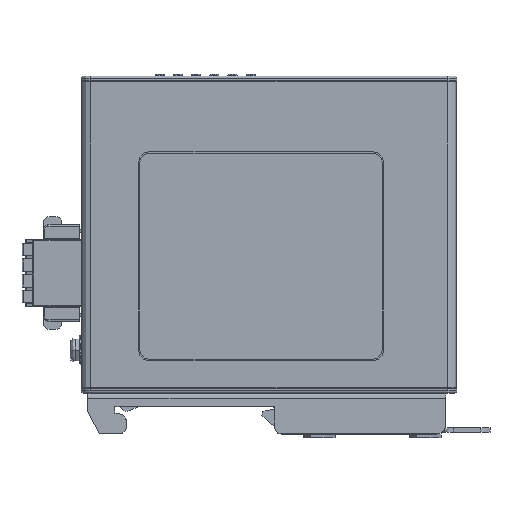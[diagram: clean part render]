
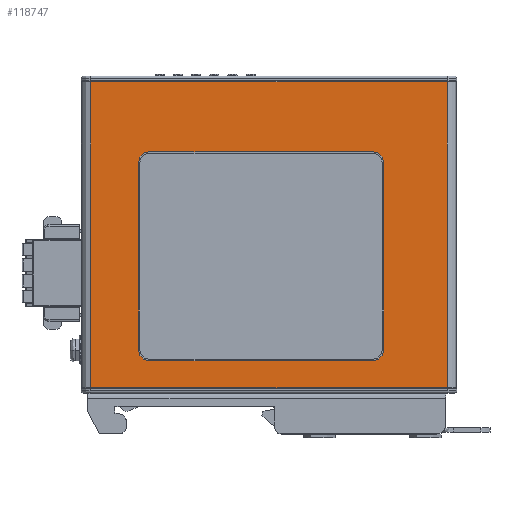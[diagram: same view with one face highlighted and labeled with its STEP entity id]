
A CAD part, left-side view. The second image highlights one B-rep face of the part: STEP entity #118747.
In plain terms, the highlighted planar face has unit normal (-1, 0, 0).
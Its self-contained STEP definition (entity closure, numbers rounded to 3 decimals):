
#113877=DIRECTION('',(0.,0.,-1.));
#113878=VECTOR('',#113877,67.5);
#113879=CARTESIAN_POINT('',(-24.8,33.9,16.75));
#113880=LINE('',#113879,#113878);
#114121=DIRECTION('',(0.,0.,1.));
#114122=VECTOR('',#114121,67.5);
#114123=CARTESIAN_POINT('',(-24.8,-44.9,-50.75));
#114124=LINE('',#114123,#114122);
#114455=DIRECTION('',(0.,-1.,0.));
#114456=VECTOR('',#114455,78.8);
#114457=CARTESIAN_POINT('',(-24.8,33.9,16.75));
#114458=LINE('',#114457,#114456);
#114459=DIRECTION('',(0.,1.,0.));
#114460=VECTOR('',#114459,78.8);
#114461=CARTESIAN_POINT('',(-24.8,-44.9,-50.75));
#114462=LINE('',#114461,#114460);
#114463=CARTESIAN_POINT('',(-24.8,21.,-42.5));
#114464=DIRECTION('',(-1.,0.,0.));
#114465=DIRECTION('',(0.,1.,0.));
#114466=AXIS2_PLACEMENT_3D('',#114463,#114464,#114465);
#114468=CARTESIAN_POINT('',(-24.8,-28.5,-42.5));
#114469=DIRECTION('',(-1.,0.,0.));
#114470=DIRECTION('',(0.,0.,-1.));
#114471=AXIS2_PLACEMENT_3D('',#114468,#114469,#114470);
#114473=CARTESIAN_POINT('',(-24.8,-28.5,-1.));
#114474=DIRECTION('',(-1.,0.,0.));
#114475=DIRECTION('',(0.,-1.,0.));
#114476=AXIS2_PLACEMENT_3D('',#114473,#114474,#114475);
#114478=CARTESIAN_POINT('',(-24.8,21.,-1.));
#114479=DIRECTION('',(-1.,0.,0.));
#114480=DIRECTION('',(0.,0.,1.));
#114481=AXIS2_PLACEMENT_3D('',#114478,#114479,#114480);
#114491=DIRECTION('',(0.,0.,1.));
#114492=VECTOR('',#114491,41.5);
#114493=CARTESIAN_POINT('',(-24.8,23.3,-42.5));
#114494=LINE('',#114493,#114492);
#114503=DIRECTION('',(0.,-1.,0.));
#114504=VECTOR('',#114503,49.5);
#114505=CARTESIAN_POINT('',(-24.8,21.,1.3));
#114506=LINE('',#114505,#114504);
#114515=DIRECTION('',(0.,0.,-1.));
#114516=VECTOR('',#114515,41.5);
#114517=CARTESIAN_POINT('',(-24.8,-30.8,-1.));
#114518=LINE('',#114517,#114516);
#114527=DIRECTION('',(0.,1.,0.));
#114528=VECTOR('',#114527,49.5);
#114529=CARTESIAN_POINT('',(-24.8,-28.5,-44.8));
#114530=LINE('',#114529,#114528);
#116960=CARTESIAN_POINT('',(-24.8,33.9,16.75));
#116961=VERTEX_POINT('',#116960);
#116962=CARTESIAN_POINT('',(-24.8,33.9,-50.75));
#116963=VERTEX_POINT('',#116962);
#117148=CARTESIAN_POINT('',(-24.8,-44.9,-50.75));
#117149=VERTEX_POINT('',#117148);
#117170=CARTESIAN_POINT('',(-24.8,-44.9,16.75));
#117171=VERTEX_POINT('',#117170);
#117292=CARTESIAN_POINT('',(-24.8,23.3,-42.5));
#117293=CARTESIAN_POINT('',(-24.8,21.,-44.8));
#117294=VERTEX_POINT('',#117292);
#117295=VERTEX_POINT('',#117293);
#117296=CARTESIAN_POINT('',(-24.8,23.3,-1.));
#117297=VERTEX_POINT('',#117296);
#117298=CARTESIAN_POINT('',(-24.8,21.,1.3));
#117299=VERTEX_POINT('',#117298);
#117300=CARTESIAN_POINT('',(-24.8,-28.5,1.3));
#117301=VERTEX_POINT('',#117300);
#117302=CARTESIAN_POINT('',(-24.8,-30.8,-1.));
#117303=VERTEX_POINT('',#117302);
#117304=CARTESIAN_POINT('',(-24.8,-30.8,-42.5));
#117305=VERTEX_POINT('',#117304);
#117306=CARTESIAN_POINT('',(-24.8,-28.5,-44.8));
#117307=VERTEX_POINT('',#117306);
#118718=CARTESIAN_POINT('',(-24.8,-5.5,-17.));
#118719=DIRECTION('',(1.,0.,0.));
#118720=DIRECTION('',(0.,-1.,0.));
#118721=AXIS2_PLACEMENT_3D('',#118718,#118719,#118720);
#118722=PLANE('',#118721);
#118723=ORIENTED_EDGE('',*,*,#118126,.T.);
#118724=ORIENTED_EDGE('',*,*,#118170,.F.);
#118725=ORIENTED_EDGE('',*,*,#118705,.T.);
#118726=ORIENTED_EDGE('',*,*,#117906,.F.);
#118727=EDGE_LOOP('',(#118723,#118724,#118725,#118726));
#118728=FACE_OUTER_BOUND('',#118727,.F.);
#118730=ORIENTED_EDGE('',*,*,#118729,.T.);
#118732=ORIENTED_EDGE('',*,*,#118731,.F.);
#118734=ORIENTED_EDGE('',*,*,#118733,.T.);
#118736=ORIENTED_EDGE('',*,*,#118735,.F.);
#118738=ORIENTED_EDGE('',*,*,#118737,.T.);
#118740=ORIENTED_EDGE('',*,*,#118739,.F.);
#118742=ORIENTED_EDGE('',*,*,#118741,.T.);
#118744=ORIENTED_EDGE('',*,*,#118743,.F.);
#118745=EDGE_LOOP('',(#118730,#118732,#118734,#118736,#118738,#118740,#118742,
#118744));
#118746=FACE_BOUND('',#118745,.F.);
#114467=CIRCLE('',#114466,2.3);
#114472=CIRCLE('',#114471,2.3);
#114477=CIRCLE('',#114476,2.3);
#114482=CIRCLE('',#114481,2.3);
#117906=EDGE_CURVE('',#116961,#116963,#113880,.T.);
#118126=EDGE_CURVE('',#116961,#117171,#114458,.T.);
#118170=EDGE_CURVE('',#117149,#117171,#114124,.T.);
#118705=EDGE_CURVE('',#117149,#116963,#114462,.T.);
#118729=EDGE_CURVE('',#117294,#117295,#114467,.T.);
#118731=EDGE_CURVE('',#117307,#117295,#114530,.T.);
#118733=EDGE_CURVE('',#117307,#117305,#114472,.T.);
#118735=EDGE_CURVE('',#117303,#117305,#114518,.T.);
#118737=EDGE_CURVE('',#117303,#117301,#114477,.T.);
#118739=EDGE_CURVE('',#117299,#117301,#114506,.T.);
#118741=EDGE_CURVE('',#117299,#117297,#114482,.T.);
#118743=EDGE_CURVE('',#117294,#117297,#114494,.T.);
#118747=ADVANCED_FACE('',(#118728,#118746),#118722,.F.);
